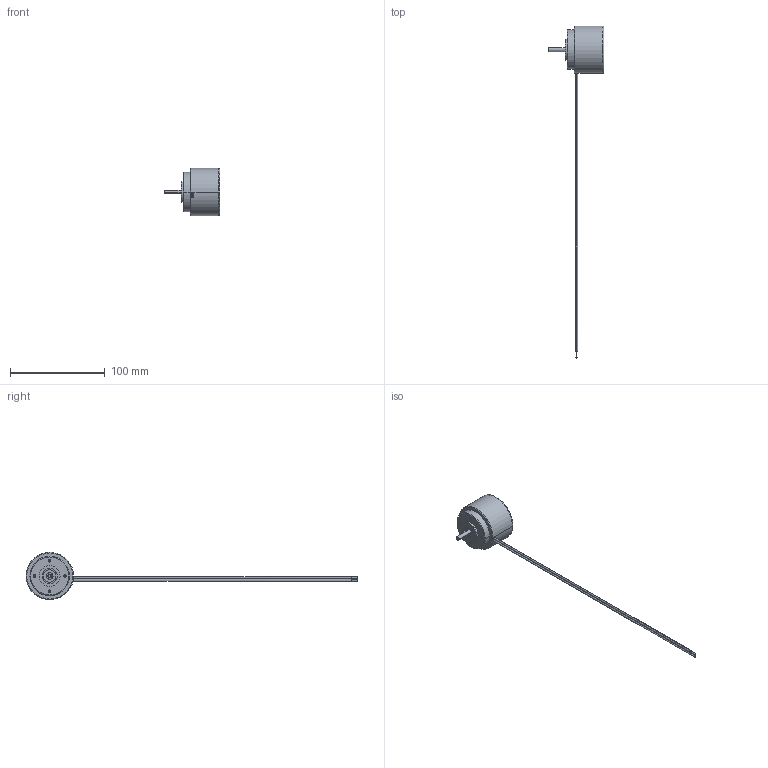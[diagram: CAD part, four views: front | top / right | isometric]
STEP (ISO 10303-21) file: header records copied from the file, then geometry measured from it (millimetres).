
FILE_DESCRIPTION((''),'2;1');
FILE_NAME('1951317','2016-10-10T',('mmagpetk'),(''),'CREO PARAMETRIC BY PTC INC, 2016050','CREO PARAMETRIC BY PTC INC, 2016050','');
FILE_SCHEMA(('CONFIG_CONTROL_DESIGN'));
Length unit declared in the file: millimetre
Products named in the file (1): 1951317
Bounding box: 58.8 x 350 x 50 mm (x, y, z)
Volume: 74196.3 mm3; surface area: 14259.2 mm2
Topology: 1 solids, 1 shells, 58 faces, 122 edges, 72 vertices
Faces by surface type: cylinder 30, plane 12, torus 8, cone 8
Entity records: 1654 total; most frequent: DIRECTION 298, CARTESIAN_POINT 288, ORIENTED_EDGE 228, AXIS2_PLACEMENT_3D 130, EDGE_CURVE 114, VERTEX_POINT 72, EDGE_LOOP 72, CIRCLE 72
